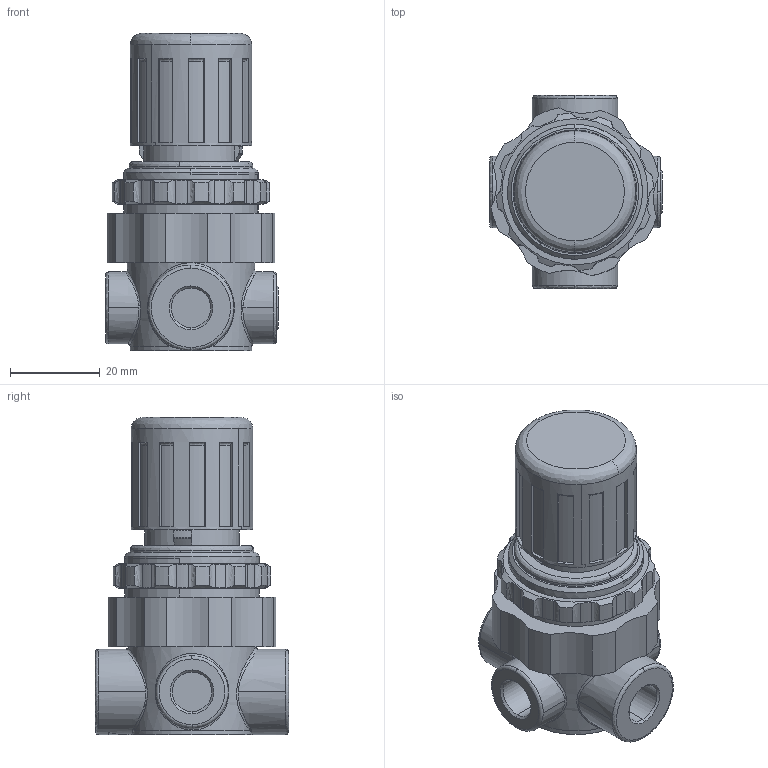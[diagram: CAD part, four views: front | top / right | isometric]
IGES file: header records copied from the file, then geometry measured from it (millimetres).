
Start section:  PTC IGES file: 0821302044.igs
Global section: file name: 0821302044.igs; native system: Pro/ENGINEER by Parametric Technology Corporation; preprocessor: 2009380; author: vol1hc; organization: Unknown; date: 20150410.140748; units: millimetre
Bounding box: 38.46 x 43 x 70.5 mm (x, y, z)
Surface area: 11874.1 mm2 (no closed solid volume)
Topology: 0 solids, 0 shells, 226 faces, 1252 edges, 1252 vertices
Faces by surface type: revolution 150, bspline 76
